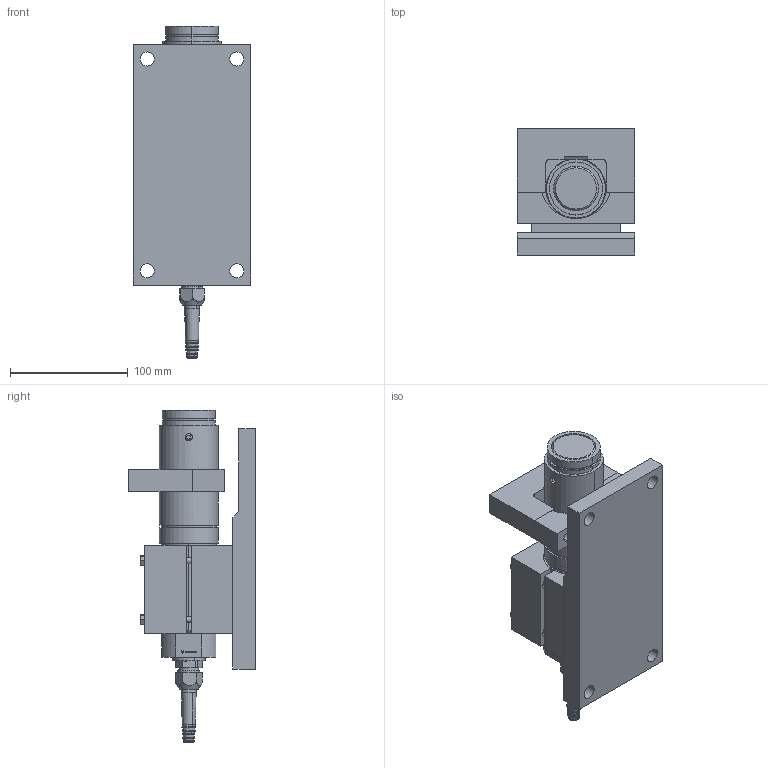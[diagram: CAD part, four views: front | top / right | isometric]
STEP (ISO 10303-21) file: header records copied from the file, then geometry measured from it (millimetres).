
FILE_DESCRIPTION (( 'STEP AP214' ), '1' );
FILE_NAME ('KIS-2 10-30 kN Module.STEP', '2021-07-01T06:47:03', ( '' ), ( '' ), 'SwSTEP 2.0', 'SolidWorks 2021', '' );
FILE_SCHEMA (( 'AUTOMOTIVE_DESIGN' ));
Length unit declared in the file: millimetre
Products named in the file (12): Wiberger-din933_m5x50; 6385540r1; 5159346r3; 1130488 - KIS-2 20kN Rostfri; 6304493r4; pg 9 kabelförskruvning; KIS-2 10-30 kN Module; M26x1.5 - Pg9 - 6369829; Wiberger-frp_A2_6x18; 4065147r5_Default<As Welded>; 6355257r4; 4087778r5
Assembly tree (12 placements, depth 3):
  KIS-2 10-30 kN Module
    4065147r5_Default<As Welded>
    1130488 - KIS-2 20kN Rostfri
      4087778r5
      5159346r3
      6385540r1
      M26x1.5 - Pg9 - 6369829
      Wiberger-frp_A2_6x18
      pg 9 kabelförskruvning
    6304493r4
    6355257r4
    Wiberger-din933_m5x50  x2
Bounding box: 100 x 107.5 x 282 mm (x, y, z)
Volume: 1106956.9 mm3; surface area: 214607.5 mm2
Topology: 12 solids, 15 shells, 533 faces, 1304 edges, 835 vertices
Faces by surface type: plane 258, cylinder 142, cone 71, bspline 50, torus 12
Entity records: 18640 total; most frequent: CARTESIAN_POINT 5085, ORIENTED_EDGE 2488, DIRECTION 2486, EDGE_CURVE 1244, AXIS2_PLACEMENT_3D 872, VERTEX_POINT 801, LINE 742, VECTOR 742
